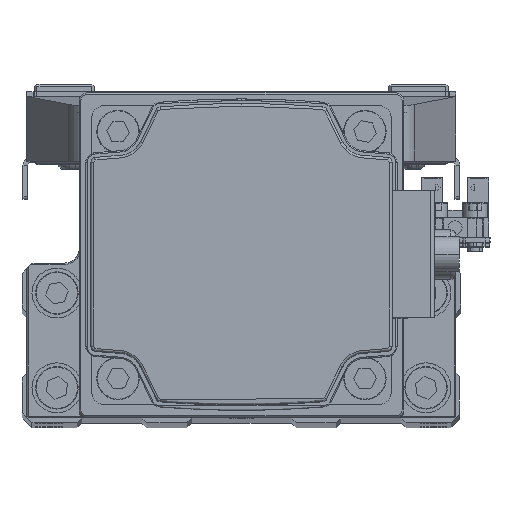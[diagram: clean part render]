
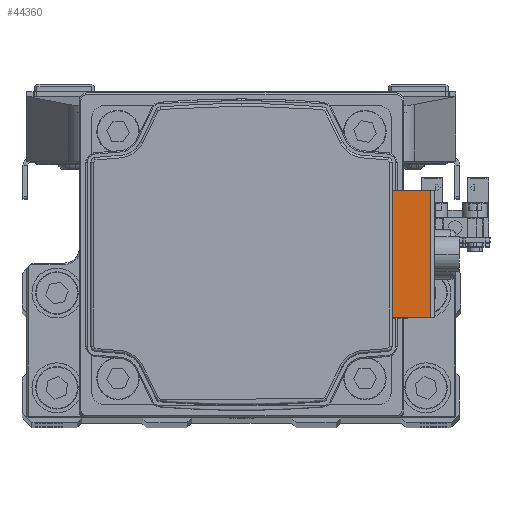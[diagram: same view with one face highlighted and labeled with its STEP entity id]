
A CAD part, top view. The second image highlights one B-rep face of the part: STEP entity #44360.
In plain terms, the highlighted planar face has unit normal (0, 0, 1) as drawn and (0, 0, -1) by its records, which use the part's own axes.
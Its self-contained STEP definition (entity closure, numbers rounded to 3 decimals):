
#449 = ORIENTED_EDGE ( 'NONE', *, *, #2787, .T. ) ;
#2390 = LINE ( 'NONE', #16951, #16612 ) ;
#2787 = EDGE_CURVE ( 'NONE', #22486, #32195, #23274, .T. ) ;
#2863 = AXIS2_PLACEMENT_3D ( 'NONE', #9074, #23645, #38199 ) ;
#3127 = CARTESIAN_POINT ( 'NONE',  ( 12.75, 33.991, -88.696 ) ) ;
#4485 = CARTESIAN_POINT ( 'NONE',  ( 18.438, 30.2, -88.696 ) ) ;
#5000 = EDGE_CURVE ( 'NONE', #32195, #41825, #2390, .T. ) ;
#5130 = DIRECTION ( 'NONE',  ( 0., 1., 0. ) ) ;
#9074 = CARTESIAN_POINT ( 'NONE',  ( 0., 37.9, -88.696 ) ) ;
#10846 = VECTOR ( 'NONE', #5130, 1000. ) ;
#11020 = ORIENTED_EDGE ( 'NONE', *, *, #13814, .F. ) ;
#11370 = ORIENTED_EDGE ( 'NONE', *, *, #5000, .T. ) ;
#11893 = ORIENTED_EDGE ( 'NONE', *, *, #33974, .F. ) ;
#13814 = EDGE_CURVE ( 'NONE', #22486, #23959, #37202, .T. ) ;
#14720 = CARTESIAN_POINT ( 'NONE',  ( 12.75, 30.2, -88.696 ) ) ;
#16612 = VECTOR ( 'NONE', #31524, 1000. ) ;
#16951 = CARTESIAN_POINT ( 'NONE',  ( 0., 37.9, -88.696 ) ) ;
#17696 = DIRECTION ( 'NONE',  ( 0., 1., 0. ) ) ;
#18308 = CARTESIAN_POINT ( 'NONE',  ( 12.75, 37.9, -88.696 ) ) ;
#19060 = DIRECTION ( 'NONE',  ( 1., 0., 0. ) ) ;
#20509 = CARTESIAN_POINT ( 'NONE',  ( -12.75, 30.2, -88.696 ) ) ;
#22486 = VERTEX_POINT ( 'NONE', #20509 ) ;
#23274 = LINE ( 'NONE', #37834, #10846 ) ;
#23645 = DIRECTION ( 'NONE',  ( 0., 0., -1. ) ) ;
#23959 = VERTEX_POINT ( 'NONE', #14720 ) ;
#25414 = EDGE_LOOP ( 'NONE', ( #449, #11370, #11893, #11020 ) ) ;
#27217 = FACE_OUTER_BOUND ( 'NONE', #25414, .T. ) ;
#27718 = VECTOR ( 'NONE', #19060, 1000. ) ;
#31524 = DIRECTION ( 'NONE',  ( 1., 0., 0. ) ) ;
#32195 = VERTEX_POINT ( 'NONE', #42211 ) ;
#33974 = EDGE_CURVE ( 'NONE', #23959, #41825, #35841, .T. ) ;
#35841 = LINE ( 'NONE', #3127, #38251 ) ;
#37202 = LINE ( 'NONE', #4485, #27718 ) ;
#37834 = CARTESIAN_POINT ( 'NONE',  ( -12.75, 37.9, -88.696 ) ) ;
#38199 = DIRECTION ( 'NONE',  ( -1., 0., 0. ) ) ;
#38251 = VECTOR ( 'NONE', #17696, 1000. ) ;
#41782 = PLANE ( 'NONE',  #2863 ) ;
#41825 = VERTEX_POINT ( 'NONE', #18308 ) ;
#42211 = CARTESIAN_POINT ( 'NONE',  ( -12.75, 37.9, -88.696 ) ) ;
#44360 = ADVANCED_FACE ( 'NONE', ( #27217 ), #41782, .T. ) ;
